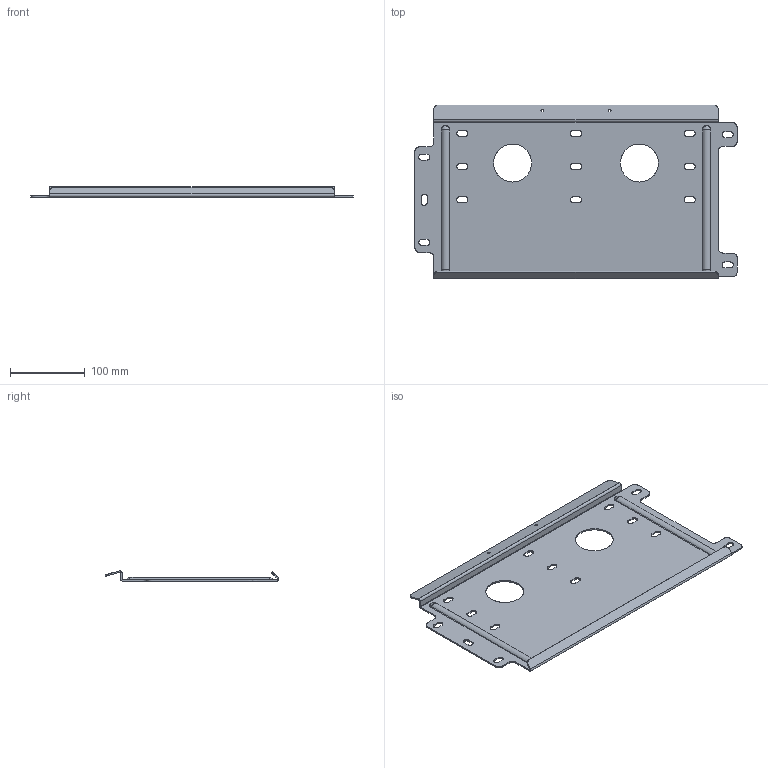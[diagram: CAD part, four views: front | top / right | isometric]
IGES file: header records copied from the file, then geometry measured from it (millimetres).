
Start section: SolidWorks IGES file using analytic representation for surfaces
Global section: file name: N:\DavidM\Conext XW and PDP bracket.IGS; native system: SolidWorks 2013; preprocessor: SolidWorks 2013; author: SESA125144; date: 140415.135546; units: millimetre
Bounding box: 431.8 x 232.95 x 13.66 mm (x, y, z)
Surface area: 200898.6 mm2 (no closed solid volume)
Topology: 0 solids, 0 shells, 155 faces, 2304 edges, 2300 vertices
Faces by surface type: revolution 91, bspline 64
